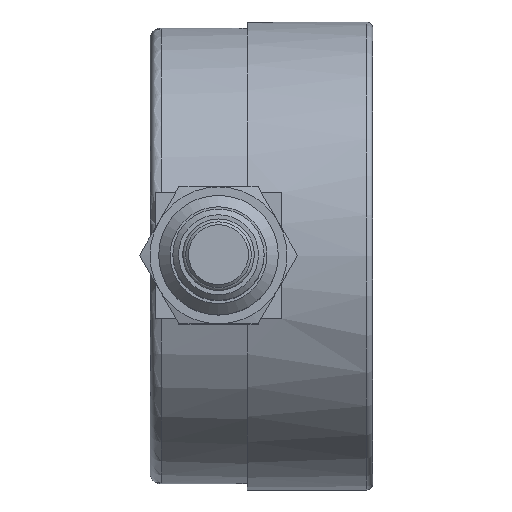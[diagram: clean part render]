
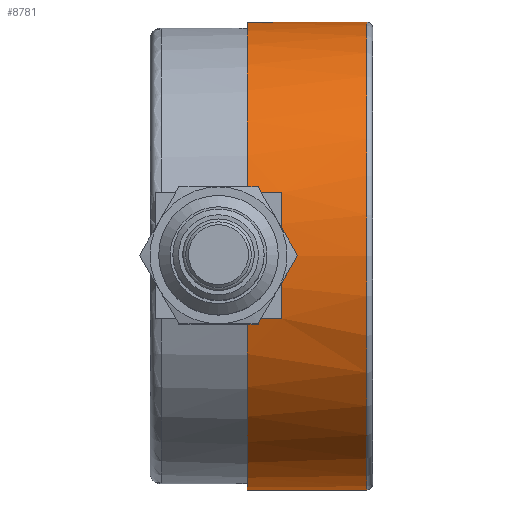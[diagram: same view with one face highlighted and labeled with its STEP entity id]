
A CAD part, top view. The second image highlights one B-rep face of the part: STEP entity #8781.
In plain terms, the highlighted cylindrical face has radius 41 mm (diameter 82 mm), a full revolution.
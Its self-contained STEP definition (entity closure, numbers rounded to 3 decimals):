
#239=CIRCLE('',#9308,41.);
#240=CIRCLE('',#9312,41.);
#241=CIRCLE('',#9313,41.);
#242=CIRCLE('',#9314,41.);
#243=CIRCLE('',#9315,41.);
#244=CIRCLE('',#9316,41.);
#309=CYLINDRICAL_SURFACE('',#9311,41.);
#764=FACE_OUTER_BOUND('',#1333,.T.);
#1333=EDGE_LOOP('',(#7699,#7700,#7701,#7702,#7703,#7704,#7705,#7706,#7707,
#7708));
#2403=LINE('',#14096,#3453);
#2413=LINE('',#14127,#3463);
#2417=LINE('',#14144,#3467);
#3453=VECTOR('',#11352,10.);
#3463=VECTOR('',#11372,10.);
#3467=VECTOR('',#11382,41.);
#4212=VERTEX_POINT('',#14094);
#4213=VERTEX_POINT('',#14095);
#4221=VERTEX_POINT('',#14120);
#4223=VERTEX_POINT('',#14126);
#4226=VERTEX_POINT('',#14141);
#4227=VERTEX_POINT('',#14143);
#4228=VERTEX_POINT('',#14145);
#4229=VERTEX_POINT('',#14147);
#5379=EDGE_CURVE('',#4212,#4213,#2403,.T.);
#5389=EDGE_CURVE('',#4213,#4221,#239,.T.);
#5392=EDGE_CURVE('',#4221,#4223,#2413,.T.);
#5397=EDGE_CURVE('',#4226,#4223,#240,.T.);
#5398=EDGE_CURVE('',#4226,#4227,#2417,.T.);
#5399=EDGE_CURVE('',#4228,#4227,#241,.T.);
#5400=EDGE_CURVE('',#4229,#4228,#242,.T.);
#5401=EDGE_CURVE('',#4227,#4229,#243,.T.);
#5402=EDGE_CURVE('',#4212,#4226,#244,.T.);
#7699=ORIENTED_EDGE('',*,*,#5379,.T.);
#7700=ORIENTED_EDGE('',*,*,#5389,.T.);
#7701=ORIENTED_EDGE('',*,*,#5392,.T.);
#7702=ORIENTED_EDGE('',*,*,#5397,.F.);
#7703=ORIENTED_EDGE('',*,*,#5398,.T.);
#7704=ORIENTED_EDGE('',*,*,#5399,.F.);
#7705=ORIENTED_EDGE('',*,*,#5400,.F.);
#7706=ORIENTED_EDGE('',*,*,#5401,.F.);
#7707=ORIENTED_EDGE('',*,*,#5398,.F.);
#7708=ORIENTED_EDGE('',*,*,#5402,.F.);
#8781=ADVANCED_FACE('',(#764),#309,.T.);
#9308=AXIS2_PLACEMENT_3D('',#14121,#11366,#11367);
#9311=AXIS2_PLACEMENT_3D('',#14140,#11378,#11379);
#9312=AXIS2_PLACEMENT_3D('',#14142,#11380,#11381);
#9313=AXIS2_PLACEMENT_3D('',#14146,#11383,#11384);
#9314=AXIS2_PLACEMENT_3D('',#14148,#11385,#11386);
#9315=AXIS2_PLACEMENT_3D('',#14149,#11387,#11388);
#9316=AXIS2_PLACEMENT_3D('',#14150,#11389,#11390);
#11352=DIRECTION('',(1.,0.,0.));
#11366=DIRECTION('center_axis',(1.,0.,0.));
#11367=DIRECTION('ref_axis',(0.,1.,0.));
#11372=DIRECTION('',(-1.,0.,0.));
#11378=DIRECTION('center_axis',(-1.,0.,0.));
#11379=DIRECTION('ref_axis',(0.,1.,0.));
#11380=DIRECTION('center_axis',(-1.,0.,0.));
#11381=DIRECTION('ref_axis',(0.,1.,0.));
#11382=DIRECTION('',(1.,0.,0.));
#11383=DIRECTION('center_axis',(1.,0.,0.));
#11384=DIRECTION('ref_axis',(0.,-1.,0.));
#11385=DIRECTION('center_axis',(1.,0.,0.));
#11386=DIRECTION('ref_axis',(0.,-1.,0.));
#11387=DIRECTION('center_axis',(1.,0.,0.));
#11388=DIRECTION('ref_axis',(0.,-1.,0.));
#11389=DIRECTION('center_axis',(-1.,0.,0.));
#11390=DIRECTION('ref_axis',(0.,1.,0.));
#14094=CARTESIAN_POINT('',(-22.,11.,39.497));
#14095=CARTESIAN_POINT('',(-16.,11.,39.497));
#14096=CARTESIAN_POINT('',(0.,11.,39.497));
#14120=CARTESIAN_POINT('',(-16.,-11.,39.497));
#14121=CARTESIAN_POINT('Origin',(-16.,0.,0.));
#14126=CARTESIAN_POINT('',(-22.,-11.,39.497));
#14127=CARTESIAN_POINT('',(0.,-11.,39.497));
#14140=CARTESIAN_POINT('Origin',(0.,0.,0.));
#14141=CARTESIAN_POINT('',(-22.,-41.,0.));
#14142=CARTESIAN_POINT('Origin',(-22.,0.,0.));
#14143=CARTESIAN_POINT('',(-1.,-41.,0.));
#14144=CARTESIAN_POINT('',(0.,-41.,0.));
#14145=CARTESIAN_POINT('',(-1.,0.,41.));
#14146=CARTESIAN_POINT('Origin',(-1.,0.,0.));
#14147=CARTESIAN_POINT('',(-1.,41.,0.));
#14148=CARTESIAN_POINT('Origin',(-1.,0.,0.));
#14149=CARTESIAN_POINT('Origin',(-1.,0.,0.));
#14150=CARTESIAN_POINT('Origin',(-22.,0.,0.));
